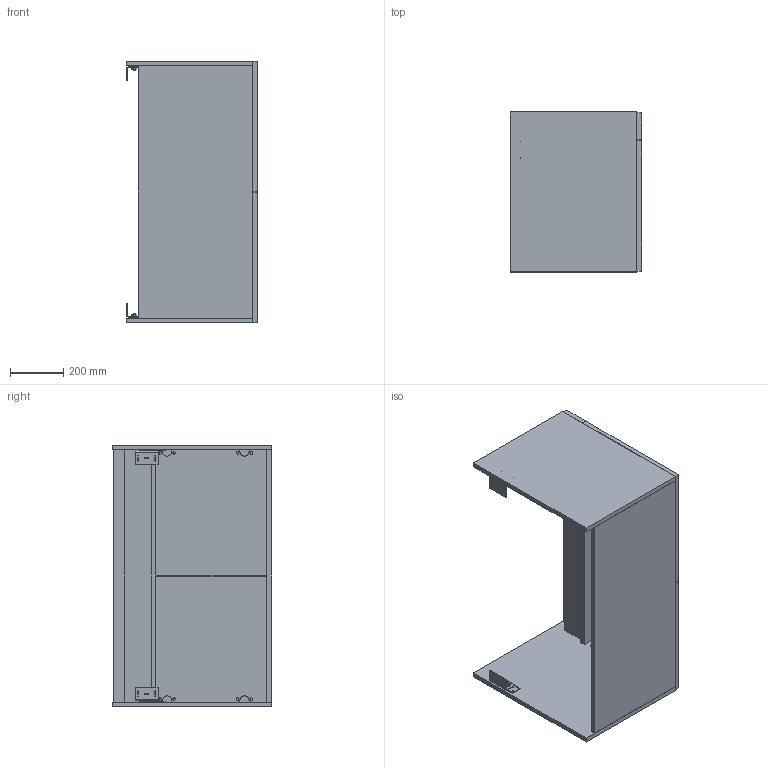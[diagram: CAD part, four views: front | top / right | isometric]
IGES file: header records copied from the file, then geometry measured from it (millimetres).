
Global section: file name: Meta Lavabo Dolabı Kapaklı 3D,2; native system: 2HAutodesk Inventor 2024; preprocessor: unknown; author: pc19; date: 20251203.092004; units: millimetre
Bounding box: 493 x 600 x 985 mm (x, y, z)
Volume: 30425934.6 mm3; surface area: 3769599.1 mm2
Topology: 18 solids, 18 shells, 442 faces, 1156 edges, 810 vertices
Faces by surface type: bspline 442
